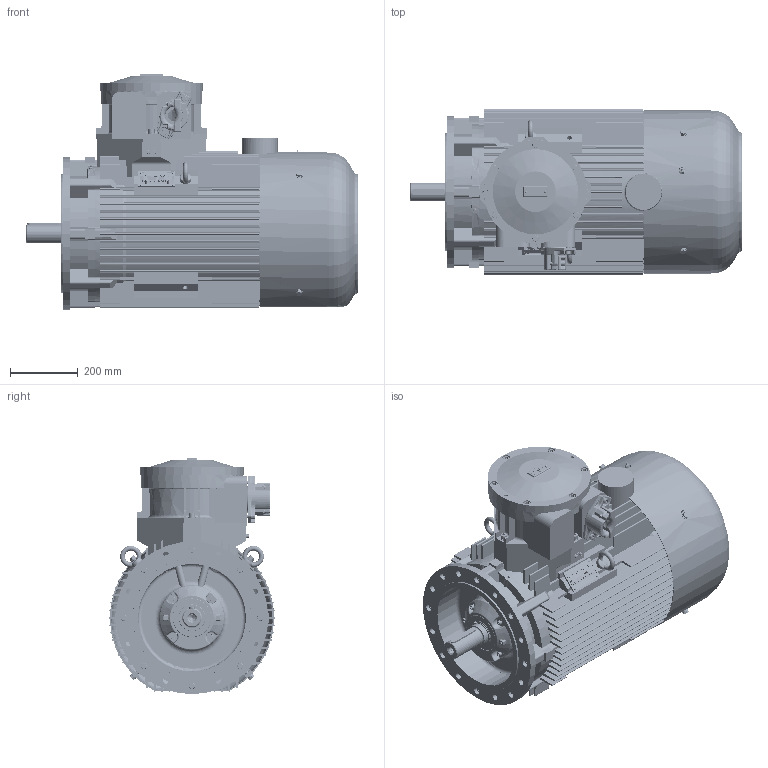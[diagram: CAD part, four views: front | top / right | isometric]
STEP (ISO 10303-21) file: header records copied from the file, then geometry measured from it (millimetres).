
FILE_DESCRIPTION(/* description */ ('Unknown'),/* implementation_level */ '2;1');
FILE_NAME(/* name */ 'Silnik cSTKe225 M2 - wykonanie OUTSIDE !',/* time_stamp */ '2021-12-23T08:16:47+01:00',/* author */ ('Unknown'),/* organization */ ('Unknown'),/* preprocessor_version */ 'ST-DEVELOPER v16.7',/* originating_system */ 'DEX',/* authorisation */ $);
FILE_SCHEMA (('AUTOMOTIVE_DESIGN {1 0 10303 214 3 1 1}'));
Products named in the file (1): Silnik cSTKe225 M2 - wykonanie OUTSIDE !
Bounding box: 979.13 x 489.83 x 696.46 mm (x, y, z)
Volume: 30834158.6 mm3; surface area: 7002488 mm2
Topology: 3 solids, 70 shells, 8296 faces, 22825 edges, 14761 vertices
Faces by surface type: plane 5479, cylinder 1666, cone 370, torus 331, bspline 328, sphere 122
Full cylindrical faces by diameter (mm): 1.2 x6, 1.6 x2, 2.459 x3, 2.5 x2, 3 x10, 3.1 x4, 3.2 x2, 3.4 x6, 4.773 x1, 4.917 x4, 5 x3, 6 x2, 6.2 x14, 6.3 x1, 6.4 x2, 6.466 x8, 6.5 x1, 6.647 x4, 8 x17, 8.16 x4, 8.376 x2, 8.8 x1, 8.917 x4, 9 x8, 9.853 x26, 10 x20, 10.106 x29, 10.5 x4, 12 x56, 13 x8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
Entity records: 330351 total; most frequent: CARTESIAN_POINT 66518, ORIENTED_EDGE 42790, DIRECTION 40215, EDGE_CURVE 21395, LINE 15333, VECTOR 15333, VERTEX_POINT 14269, AXIS2_PLACEMENT_3D 12441
